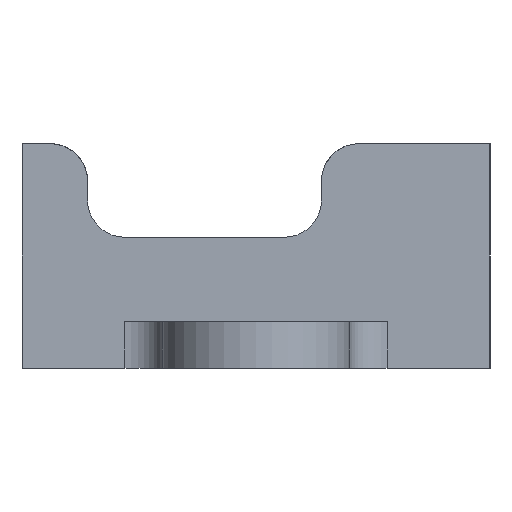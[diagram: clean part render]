
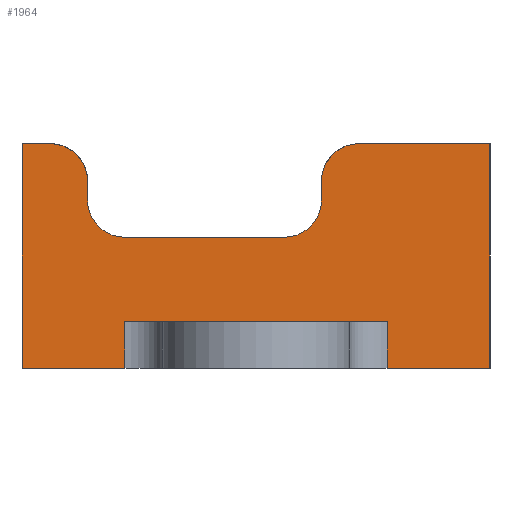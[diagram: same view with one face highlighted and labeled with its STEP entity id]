
A CAD part, left-side view. The second image highlights one B-rep face of the part: STEP entity #1964.
In plain terms, the highlighted planar face has unit normal (-1, 0, 0).
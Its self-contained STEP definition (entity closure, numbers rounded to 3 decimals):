
#730=CARTESIAN_POINT('Line Origine',(-21.,-12.5,6.)) ;
#734=CARTESIAN_POINT('Vertex',(-21.,-12.5,0.)) ;
#736=CARTESIAN_POINT('Vertex',(-21.,-12.5,12.)) ;
#783=CARTESIAN_POINT('Vertex',(-21.,12.5,0.)) ;
#786=CARTESIAN_POINT('Line Origine',(-21.,12.5,6.)) ;
#790=CARTESIAN_POINT('Vertex',(-21.,12.5,12.)) ;
#1064=CARTESIAN_POINT('Line Origine',(-21.,-7.,1.25)) ;
#1068=CARTESIAN_POINT('Vertex',(-21.,-7.,2.5)) ;
#1070=CARTESIAN_POINT('Vertex',(-21.,-7.,0.)) ;
#1095=CARTESIAN_POINT('Line Origine',(-21.,0.,2.5)) ;
#1099=CARTESIAN_POINT('Vertex',(-21.,7.,2.5)) ;
#1156=CARTESIAN_POINT('Line Origine',(-21.,7.,1.25)) ;
#1160=CARTESIAN_POINT('Vertex',(-21.,7.,0.)) ;
#1276=CARTESIAN_POINT('Line Origine',(-21.,-9.75,0.)) ;
#1281=CARTESIAN_POINT('Line Origine',(-21.,9.75,0.)) ;
#1701=CARTESIAN_POINT('Vertex',(-21.,9.,9.)) ;
#1706=CARTESIAN_POINT('Axis2P3D Location',(-21.,7.,9.)) ;
#1710=CARTESIAN_POINT('Vertex',(-21.,7.,7.)) ;
#1737=CARTESIAN_POINT('Line Origine',(-21.,11.75,12.)) ;
#1741=CARTESIAN_POINT('Vertex',(-21.,11.,12.)) ;
#1763=CARTESIAN_POINT('Vertex',(-21.,9.,10.)) ;
#1766=CARTESIAN_POINT('Line Origine',(-21.,9.,9.5)) ;
#1788=CARTESIAN_POINT('Axis2P3D Location',(-21.,11.,10.)) ;
#1813=CARTESIAN_POINT('Line Origine',(-21.,2.75,7.)) ;
#1817=CARTESIAN_POINT('Vertex',(-21.,-1.5,7.)) ;
#1843=CARTESIAN_POINT('Vertex',(-21.,-3.5,9.)) ;
#1851=CARTESIAN_POINT('Axis2P3D Location',(-21.,-1.5,9.)) ;
#1863=CARTESIAN_POINT('Line Origine',(-21.,-9.,12.)) ;
#1867=CARTESIAN_POINT('Vertex',(-21.,-5.5,12.)) ;
#1929=CARTESIAN_POINT('Axis2P3D Location',(-21.,12.5,0.)) ;
#1934=CARTESIAN_POINT('Line Origine',(-21.,-3.5,9.5)) ;
#1938=CARTESIAN_POINT('Vertex',(-21.,-3.5,10.)) ;
#1941=CARTESIAN_POINT('Axis2P3D Location',(-21.,-5.5,10.)) ;
#731=DIRECTION('Vector Direction',(0.,0.,1.)) ;
#787=DIRECTION('Vector Direction',(0.,0.,1.)) ;
#1065=DIRECTION('Vector Direction',(0.,0.,1.)) ;
#1096=DIRECTION('Vector Direction',(0.,-1.,0.)) ;
#1157=DIRECTION('Vector Direction',(0.,0.,1.)) ;
#1277=DIRECTION('Vector Direction',(0.,-1.,0.)) ;
#1282=DIRECTION('Vector Direction',(0.,-1.,0.)) ;
#1707=DIRECTION('Axis2P3D Direction',(1.,0.,0.)) ;
#1738=DIRECTION('Vector Direction',(0.,-1.,0.)) ;
#1767=DIRECTION('Vector Direction',(0.,0.,-1.)) ;
#1789=DIRECTION('Axis2P3D Direction',(1.,0.,-0.)) ;
#1814=DIRECTION('Vector Direction',(0.,-1.,0.)) ;
#1852=DIRECTION('Axis2P3D Direction',(1.,0.,0.)) ;
#1864=DIRECTION('Vector Direction',(0.,-1.,0.)) ;
#1930=DIRECTION('Axis2P3D Direction',(-1.,0.,0.)) ;
#1931=DIRECTION('Axis2P3D XDirection',(0.,-1.,0.)) ;
#1935=DIRECTION('Vector Direction',(0.,0.,-1.)) ;
#1942=DIRECTION('Axis2P3D Direction',(-1.,0.,0.)) ;
#1708=AXIS2_PLACEMENT_3D('Circle Axis2P3D',#1706,#1707,$) ;
#1790=AXIS2_PLACEMENT_3D('Circle Axis2P3D',#1788,#1789,$) ;
#1853=AXIS2_PLACEMENT_3D('Circle Axis2P3D',#1851,#1852,$) ;
#1932=AXIS2_PLACEMENT_3D('Plane Axis2P3D',#1929,#1930,#1931) ;
#1943=AXIS2_PLACEMENT_3D('Circle Axis2P3D',#1941,#1942,$) ;
#1947=ORIENTED_EDGE('',*,*,#1940,.T.) ;
#1948=ORIENTED_EDGE('',*,*,#1855,.T.) ;
#1949=ORIENTED_EDGE('',*,*,#1819,.F.) ;
#1950=ORIENTED_EDGE('',*,*,#1712,.T.) ;
#1951=ORIENTED_EDGE('',*,*,#1770,.F.) ;
#1952=ORIENTED_EDGE('',*,*,#1792,.F.) ;
#1953=ORIENTED_EDGE('',*,*,#1743,.F.) ;
#1954=ORIENTED_EDGE('',*,*,#792,.F.) ;
#1955=ORIENTED_EDGE('',*,*,#1285,.T.) ;
#1956=ORIENTED_EDGE('',*,*,#1162,.F.) ;
#1957=ORIENTED_EDGE('',*,*,#1101,.T.) ;
#1958=ORIENTED_EDGE('',*,*,#1072,.T.) ;
#1959=ORIENTED_EDGE('',*,*,#1280,.T.) ;
#1960=ORIENTED_EDGE('',*,*,#738,.T.) ;
#1961=ORIENTED_EDGE('',*,*,#1869,.F.) ;
#1962=ORIENTED_EDGE('',*,*,#1945,.F.) ;
#732=VECTOR('Line Direction',#731,1.) ;
#788=VECTOR('Line Direction',#787,1.) ;
#1066=VECTOR('Line Direction',#1065,1.) ;
#1097=VECTOR('Line Direction',#1096,1.) ;
#1158=VECTOR('Line Direction',#1157,1.) ;
#1278=VECTOR('Line Direction',#1277,1.) ;
#1283=VECTOR('Line Direction',#1282,1.) ;
#1739=VECTOR('Line Direction',#1738,1.) ;
#1768=VECTOR('Line Direction',#1767,1.) ;
#1815=VECTOR('Line Direction',#1814,1.) ;
#1865=VECTOR('Line Direction',#1864,1.) ;
#1936=VECTOR('Line Direction',#1935,1.) ;
#1964=ADVANCED_FACE('PartBody',(#1963),#1933,.T.) ;
#1709=CIRCLE('generated circle',#1708,2.) ;
#1791=CIRCLE('generated circle',#1790,2.) ;
#1854=CIRCLE('generated circle',#1853,2.) ;
#1944=CIRCLE('generated circle',#1943,2.) ;
#738=EDGE_CURVE('',#735,#737,#733,.T.) ;
#792=EDGE_CURVE('',#784,#791,#789,.T.) ;
#1072=EDGE_CURVE('',#1069,#1071,#1067,.F.) ;
#1101=EDGE_CURVE('',#1100,#1069,#1098,.T.) ;
#1162=EDGE_CURVE('',#1100,#1161,#1159,.F.) ;
#1280=EDGE_CURVE('',#1071,#735,#1279,.T.) ;
#1285=EDGE_CURVE('',#784,#1161,#1284,.T.) ;
#1712=EDGE_CURVE('',#1711,#1702,#1709,.T.) ;
#1743=EDGE_CURVE('',#791,#1742,#1740,.T.) ;
#1770=EDGE_CURVE('',#1764,#1702,#1769,.T.) ;
#1792=EDGE_CURVE('',#1742,#1764,#1791,.T.) ;
#1819=EDGE_CURVE('',#1711,#1818,#1816,.T.) ;
#1855=EDGE_CURVE('',#1844,#1818,#1854,.T.) ;
#1869=EDGE_CURVE('',#1868,#737,#1866,.T.) ;
#1940=EDGE_CURVE('',#1939,#1844,#1937,.T.) ;
#1945=EDGE_CURVE('',#1939,#1868,#1944,.F.) ;
#1946=EDGE_LOOP('',(#1947,#1948,#1949,#1950,#1951,#1952,#1953,#1954,#1955,#1956,#1957,#1958,#1959,#1960,#1961,#1962)) ;
#1963=FACE_OUTER_BOUND('',#1946,.T.) ;
#733=LINE('Line',#730,#732) ;
#789=LINE('Line',#786,#788) ;
#1067=LINE('Line',#1064,#1066) ;
#1098=LINE('Line',#1095,#1097) ;
#1159=LINE('Line',#1156,#1158) ;
#1279=LINE('Line',#1276,#1278) ;
#1284=LINE('Line',#1281,#1283) ;
#1740=LINE('Line',#1737,#1739) ;
#1769=LINE('Line',#1766,#1768) ;
#1816=LINE('Line',#1813,#1815) ;
#1866=LINE('Line',#1863,#1865) ;
#1937=LINE('Line',#1934,#1936) ;
#1933=PLANE('Plane',#1932) ;
#735=VERTEX_POINT('',#734) ;
#737=VERTEX_POINT('',#736) ;
#784=VERTEX_POINT('',#783) ;
#791=VERTEX_POINT('',#790) ;
#1069=VERTEX_POINT('',#1068) ;
#1071=VERTEX_POINT('',#1070) ;
#1100=VERTEX_POINT('',#1099) ;
#1161=VERTEX_POINT('',#1160) ;
#1702=VERTEX_POINT('',#1701) ;
#1711=VERTEX_POINT('',#1710) ;
#1742=VERTEX_POINT('',#1741) ;
#1764=VERTEX_POINT('',#1763) ;
#1818=VERTEX_POINT('',#1817) ;
#1844=VERTEX_POINT('',#1843) ;
#1868=VERTEX_POINT('',#1867) ;
#1939=VERTEX_POINT('',#1938) ;
